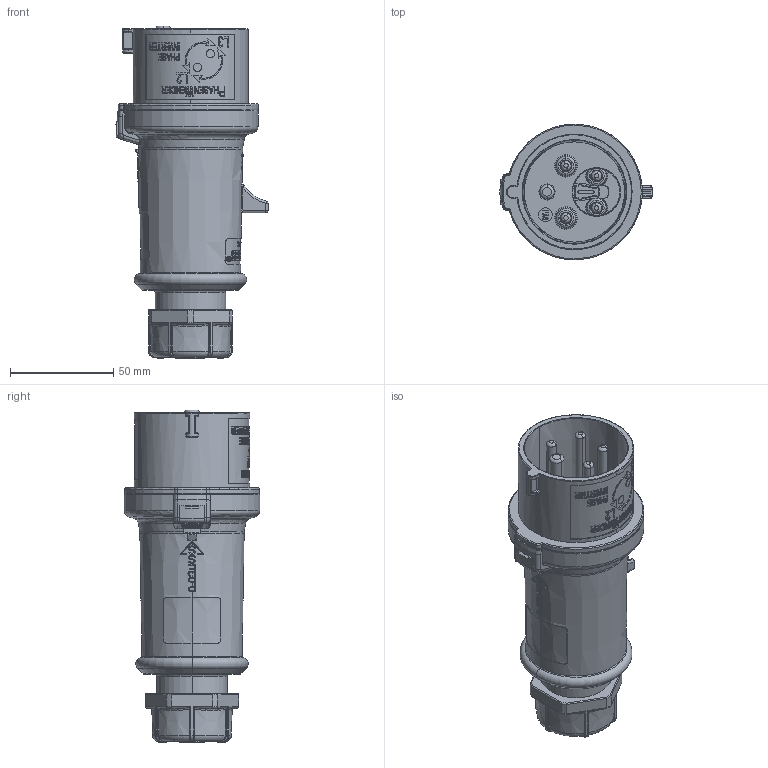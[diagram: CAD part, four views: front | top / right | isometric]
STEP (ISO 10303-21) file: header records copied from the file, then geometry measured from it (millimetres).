
FILE_DESCRIPTION((''),'2;1');
FILE_NAME('3319_SW0001','2019-01-28T',('kremer'),('MENNEKES'),'PRO/ENGINEER BY PARAMETRIC TECHNOLOGY CORPORATION, 2015440','PRO/ENGINEER BY PARAMETRIC TECHNOLOGY CORPORATION, 2015440','');
FILE_SCHEMA(('AUTOMOTIVE_DESIGN { 1 0 10303 214 1 1 1 1 }'));
Products named in the file (1): 3319_SW0001
Bounding box: 73.48 x 65.53 x 160.5 mm (x, y, z)
Volume: 252515.8 mm3; surface area: 45448 mm2
Topology: 1 solids, 1 shells, 2883 faces, 8091 edges, 5307 vertices
Faces by surface type: plane 1891, cone 265, cylinder 262, extrusion 242, torus 109, bspline 108, sphere 6
Entity records: 122698 total; most frequent: CARTESIAN_POINT 31404, ORIENTED_EDGE 16182, DIRECTION 12195, EDGE_CURVE 8091, VERTEX_POINT 5307, VECTOR 4235, LINE 3993, AXIS2_PLACEMENT_3D 3980
